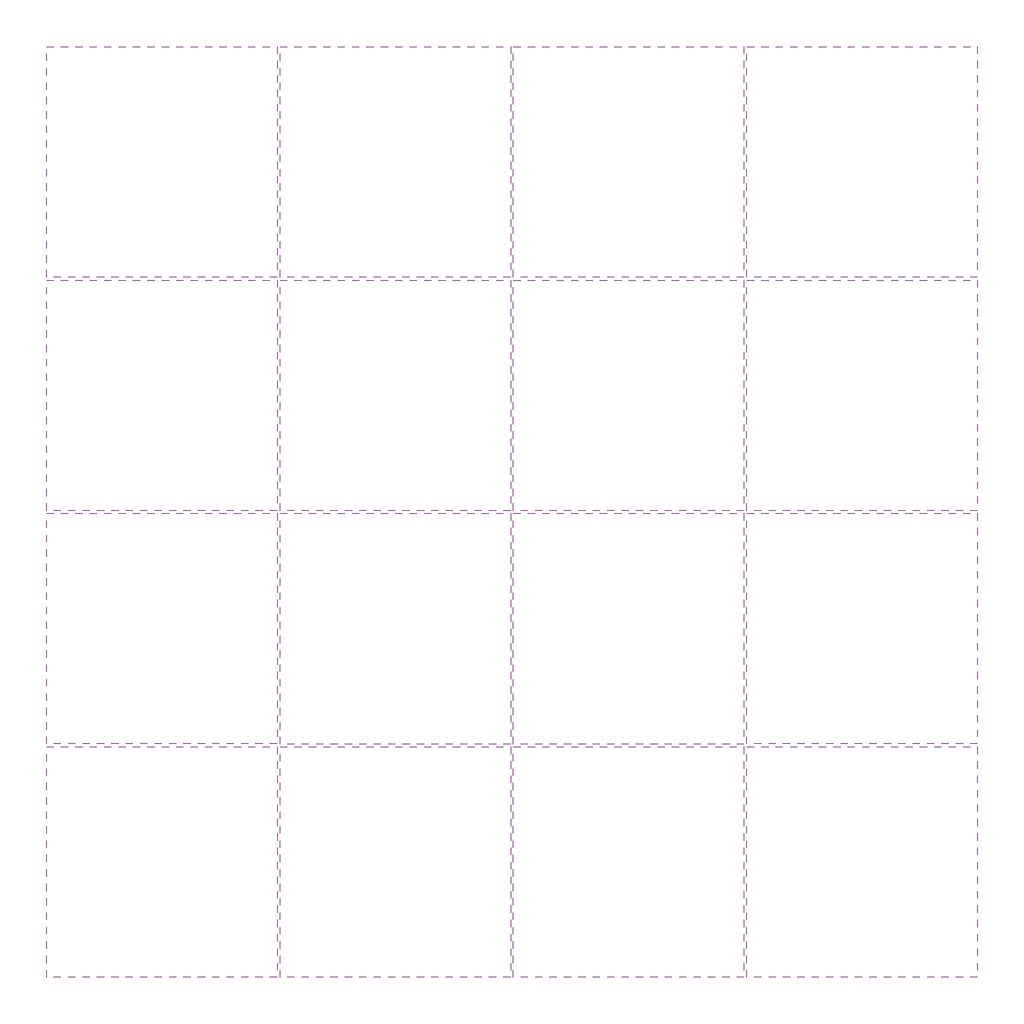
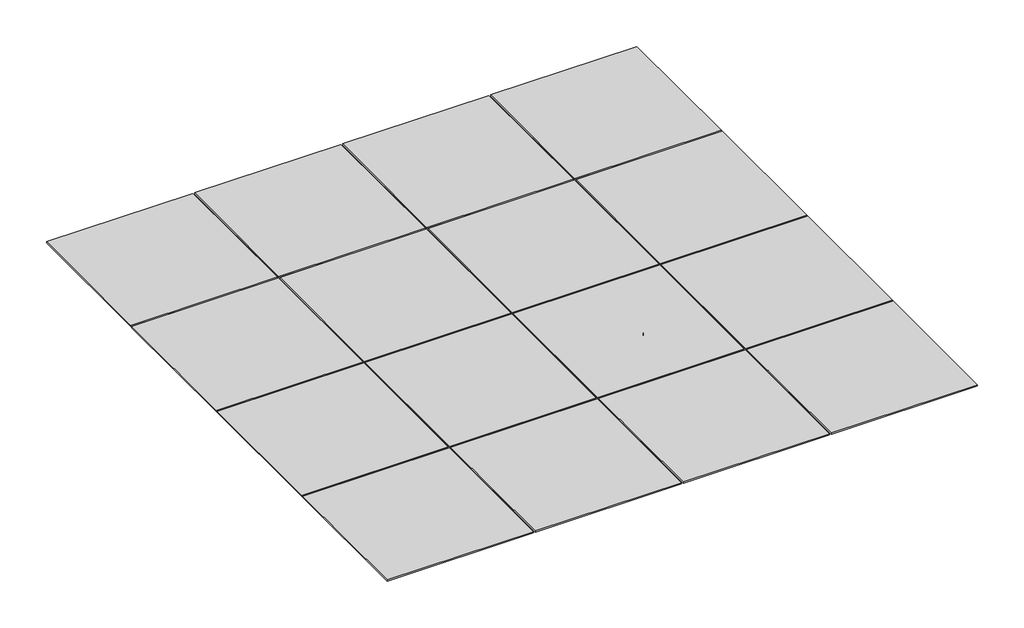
# One storey: 16 plates.
"""IFC4 building model written with IfcOpenShell, lengths in millimetres."""

import ifcopenshell
import ifcopenshell.guid

model = None  # the IFC model being written
_history = None  # IfcOwnerHistory: only IFC2X3 demands one
_inside = {}  # id of a spatial element -> (the spatial element, [elements in it])
_under = {}  # id of a project, library or spatial element -> (it, [spatial elements below it])
_declared = {}  # id of a project -> (the project, [libraries it declares])
_typed = {}  # id of a type object -> (the type object, [elements of that type])
_made_of = {}  # id of a material, layer set ... -> (it, [elements and type objects made of it])


def new_model(schema):
    """Start an empty IFC model of exactly this schema.

    Asked for "IFC4X3", IfcOpenShell would pick the latest addendum, in which some entities
    have other attributes; the version numbers below select the first issue.
    IFC2X3 requires an IfcOwnerHistory on every rooted entity: one is made here for all.
    """
    global model, _history
    if schema == "IFC4X3":
        model = ifcopenshell.file(schema_version=(4, 3, 0, 0))
    else:
        model = ifcopenshell.file(schema=schema)
    _inside.clear()
    _under.clear()
    _declared.clear()
    _typed.clear()
    _made_of.clear()
    _history = None
    if model.schema == "IFC2X3":
        org = make("IfcOrganization", Name="unknown")
        user = make(
            "IfcPersonAndOrganization",
            ThePerson=make("IfcPerson", FamilyName="unknown"),
            TheOrganization=org,
        )
        app = make(
            "IfcApplication",
            ApplicationDeveloper=org,
            Version="unknown",
            ApplicationFullName="unknown",
            ApplicationIdentifier="unknown",
        )
        _history = make(
            "IfcOwnerHistory",
            OwningUser=user,
            OwningApplication=app,
            ChangeAction="ADDED",
            CreationDate=0,
        )
    return model


def make(cls, **values):
    """One entity of the class cls with the attributes given. An attribute that is None is left unset."""
    return model.create_entity(
        cls, **{name: value for name, value in values.items() if value is not None}
    )


def rooted(cls, **values):
    """An entity with a GlobalId (a new one), such as an element, a storey or a relation."""
    return make(cls, GlobalId=ifcopenshell.guid.new(), OwnerHistory=_history, **values)


def si_unit(unit_type, name, prefix=None):
    """IfcSIUnit, for example si_unit("LENGTHUNIT", "METRE", prefix="MILLI")."""
    return make("IfcSIUnit", UnitType=unit_type, Prefix=prefix, Name=name)


def assignment(units):
    """IfcUnitAssignment: the units of a project."""
    return None if units is None else make("IfcUnitAssignment", Units=units)


def point(xyz):
    """IfcCartesianPoint."""
    return None if xyz is None else make("IfcCartesianPoint", Coordinates=xyz)


def direction(xyz):
    """IfcDirection."""
    return None if xyz is None else make("IfcDirection", DirectionRatios=xyz)


def frame(location, z_axis=None, x_axis=None):
    """IfcAxis2Placement3D, a coordinate frame: its origin and axes. An axis left out is left unset."""
    return make(
        "IfcAxis2Placement3D",
        Location=point(location),
        Axis=direction(z_axis),
        RefDirection=direction(x_axis),
    )


def origin():
    """The frame at (0, 0, 0) with its axes left unset."""
    return frame((0.0, 0.0, 0.0))


def place(relative_to, where):
    """IfcLocalPlacement: puts the frame where relative to a parent placement (None: the world)."""
    return make(
        "IfcLocalPlacement", PlacementRelTo=relative_to, RelativePlacement=where
    )


def context(
    kind, dimensions, precision=None, world=None, true_north=None, identifier=None
):
    """IfcGeometricRepresentationContext, for example the 3D "Model" context."""
    return make(
        "IfcGeometricRepresentationContext",
        ContextIdentifier=identifier,
        ContextType=kind,
        CoordinateSpaceDimension=dimensions,
        Precision=precision,
        WorldCoordinateSystem=world,
        TrueNorth=true_north,
    )


def project(units=None, contexts=None):
    """IfcProject with its units and contexts."""
    return rooted(
        "IfcProject",
        Name="project",
        RepresentationContexts=contexts,
        UnitsInContext=assignment(units),
    )


def spatial(cls, under=None, at=None, **own):
    """A site, building, storey or space (cls), placed at a placement, below another one or the project."""
    s = rooted(cls, ObjectPlacement=at, **own)
    if under is not None:
        _under.setdefault(under.id(), (under, []))[1].append(s)
    return s


def polyline(points):
    """IfcPolyline through the points."""
    return make("IfcPolyline", Points=[point(p) for p in points])


def circle_curve(where, radius):
    """IfcCircle in the frame where."""
    return make("IfcCircle", Position=where, Radius=radius)


def outline(outer, holes=None, kind="AREA"):
    """IfcArbitraryClosedProfileDef: a profile drawn as a closed curve; with holes, ...WithVoids."""
    if holes is None:
        return make("IfcArbitraryClosedProfileDef", ProfileType=kind, OuterCurve=outer)
    return make(
        "IfcArbitraryProfileDefWithVoids",
        ProfileType=kind,
        OuterCurve=outer,
        InnerCurves=holes,
    )


def extrude(swept, where, along, depth):
    """IfcExtrudedAreaSolid: the profile swept, set in the frame where, extruded along a direction by depth."""
    return make(
        "IfcExtrudedAreaSolid",
        SweptArea=swept,
        Position=where,
        ExtrudedDirection=direction(along),
        Depth=depth,
    )


def shape(context_of_items, identifier, shape_type, items):
    """IfcShapeRepresentation: the items that make up one representation, for example the "Body"."""
    return make(
        "IfcShapeRepresentation",
        ContextOfItems=context_of_items,
        RepresentationIdentifier=identifier,
        RepresentationType=shape_type,
        Items=items,
    )


def source(mapping_origin, context_of_items, identifier, shape_type, items):
    """IfcRepresentationMap: a shape defined once, which mapped items show again and again."""
    return make(
        "IfcRepresentationMap",
        MappingOrigin=mapping_origin,
        MappedRepresentation=shape(context_of_items, identifier, shape_type, items),
    )


def transform(
    local_origin,
    x_axis=None,
    y_axis=None,
    z_axis=None,
    scale=None,
    scale2=None,
    scale3=None,
    uniform=True,
):
    """IfcCartesianTransformationOperator3D, or its non-uniform kind. x_axis, y_axis, z_axis: its Axis1, 2, 3."""
    if uniform:
        return make(
            "IfcCartesianTransformationOperator3D",
            Axis1=direction(x_axis),
            Axis2=direction(y_axis),
            LocalOrigin=point(local_origin),
            Scale=scale,
            Axis3=direction(z_axis),
        )
    return make(
        "IfcCartesianTransformationOperator3DnonUniform",
        Axis1=direction(x_axis),
        Axis2=direction(y_axis),
        LocalOrigin=point(local_origin),
        Scale=scale,
        Axis3=direction(z_axis),
        Scale2=scale2,
        Scale3=scale3,
    )


def mapped(mapping_source, mapping_target):
    """IfcMappedItem: shows the shape of a source again, moved by a transform."""
    return make(
        "IfcMappedItem", MappingSource=mapping_source, MappingTarget=mapping_target
    )


def made_of(thing, what):
    """Note that an element or type object is made of a material, layer set ...; save() writes the relation."""
    if what is not None:
        _made_of.setdefault(what.id(), (what, []))[1].append(thing)
    return thing


def element(
    cls,
    number,
    at=None,
    inside=None,
    cuts=None,
    type_object=None,
    material=None,
    context=None,
    identifier="Body",
    shape_type=None,
    held_by="IfcProductDefinitionShape",
    body=None,
    shapes=None,
    **own,
):
    """One element of the class cls, such as IfcWall. Its Tag is "e" and its number.

    at: its placement. inside: the storey or other place that contains it. cuts: it is an
    opening in that element (IfcRelVoidsElement). A single representation is given by context,
    identifier, shape_type and body (its items); several are given by shapes. held_by: the class
    of the entity that holds the representations. save() writes the other relations.
    """
    e = rooted(cls, Tag="e%d" % number, ObjectPlacement=at, **own)
    if body is not None:
        shapes = [shape(context, identifier, shape_type, body)]
    if shapes is not None:
        e.Representation = make(held_by, Representations=shapes)
    if inside is not None:
        _inside.setdefault(inside.id(), (inside, []))[1].append(e)
    if cuts is not None:
        rooted(
            "IfcRelVoidsElement", RelatingBuildingElement=cuts, RelatedOpeningElement=e
        )
    if type_object is not None:
        _typed.setdefault(type_object.id(), (type_object, []))[1].append(e)
    return made_of(e, material)


def aggregate(whole, parts):
    """IfcRelAggregates: a whole, such as a stair, and the parts it consists of."""
    return rooted("IfcRelAggregates", RelatingObject=whole, RelatedObjects=parts)


def save(model, path):
    """Write the relations noted so far, then the file.

    IfcRelAggregates (storeys below a building ...), IfcRelContainedInSpatialStructure (elements
    in a storey), IfcRelDefinesByType, IfcRelAssociatesMaterial and IfcRelDeclares: one each for
    every whole, place, type object, material and project.
    """
    for whole, parts in _under.values():
        aggregate(whole, parts)
    for where, things in _inside.values():
        rooted(
            "IfcRelContainedInSpatialStructure",
            RelatedElements=things,
            RelatingStructure=where,
        )
    for kind, things in _typed.values():
        rooted("IfcRelDefinesByType", RelatedObjects=things, RelatingType=kind)
    for what, things in _made_of.values():
        rooted("IfcRelAssociatesMaterial", RelatedObjects=things, RelatingMaterial=what)
    for by, libraries in _declared.values():
        rooted("IfcRelDeclares", RelatingContext=by, RelatedDefinitions=libraries)
    model.write(path)


def plane_surface(at):
    """IfcPlane: the flat surface through the origin of the frame at, square to its z axis."""
    return make("IfcPlane", Position=at)


def revolved_surface(curve, axis_point, axis_direction):
    """IfcSurfaceOfRevolution: the curve turned about the line through axis_point along axis_direction."""
    return make(
        "IfcSurfaceOfRevolution",
        SweptCurve=make("IfcArbitraryOpenProfileDef", ProfileType="CURVE", Curve=curve),
        AxisPosition=make("IfcAxis1Placement", Location=point(axis_point), Axis=direction(axis_direction)),
    )


def advanced_brep(points, edges, surfaces, faces):
    """IfcAdvancedBrep: a solid bounded by faces that lie on surfaces and meet in shared edges.

    An edge is (start, end): straight between two places in points (the first is 0);
    or (start, end, curve); or (start, end, curve, False) where it runs against its curve.
    A face is (place in surfaces, loops), or (place, loops, False) where it looks against
    its surface's normal. A loop lists edges by number (the first is 1), with a minus sign
    where the edge is run from its end to its start. The first loop is the outer one.
    """
    corners = [point(p) for p in points]
    vertices = [make("IfcVertexPoint", VertexGeometry=c) for c in corners]
    made = []
    for start, end, *more in edges:
        made.append(
            make(
                "IfcEdgeCurve",
                EdgeStart=vertices[start],
                EdgeEnd=vertices[end],
                EdgeGeometry=more[0] if more else make("IfcPolyline", Points=[corners[start], corners[end]]),
                SameSense=more[1] if len(more) > 1 else True,
            )
        )
    hull = []
    for where, loops, *sense in faces:
        bounds = []
        for j, loop in enumerate(loops):
            ring = [make("IfcOrientedEdge", EdgeElement=made[abs(k) - 1], Orientation=k > 0) for k in loop]
            bounds.append(
                make(
                    "IfcFaceOuterBound" if j == 0 else "IfcFaceBound",
                    Bound=make("IfcEdgeLoop", EdgeList=ring),
                    Orientation=True,
                )
            )
        hull.append(make("IfcAdvancedFace", Bounds=bounds, FaceSurface=surfaces[where], SameSense=sense[0] if sense else True))
    return make("IfcAdvancedBrep", Outer=make("IfcClosedShell", CfsFaces=hull))


def plate_562299b5(model_context):
    return source(origin(), model_context, "Body", "SweptSolid", [
        extrude(outline(polyline([(300.9900002, 0.0), (-300.9900002, 0.0), (-300.9900002, 4.9609375), (300.9900002, 4.9609375), (300.9900002, 0.0)])), frame((0.0, 0.0, 3.81), z_axis=(0.0, 0.0, 1.0), x_axis=(1.0, 0.0, 0.0)), (0.0, 0.0, 1.0), 601.98),
    ])


def plate_104ba011(model_context):
    return source(origin(), model_context, "Body", "SolidModel", [
        advanced_brep(
        [(-290.8101563, 4.9609375, 13.9898438), (-290.8101563, 81.1082644, 13.9898438), (290.8101562, 81.1082644, 13.9898438), (290.8101562, 4.9609375, 13.9898438), (-290.8101562, 4.9609375, 595.6101563), (290.8101562, 4.9609375, 595.6101563), (290.8101562, 5.3578125, 595.6101563), (-45.2139594, 5.3578125, 595.6101563), (-45.2139594, 24.0011217, 595.6101563), (-108.7057833, 24.0011217, 595.6101563), (-108.7057833, 43.0511081, 595.6101563), (-156.3229695, 43.0511081, 595.6101563), (-156.3229695, 62.1010648, 595.6101563), (-232.5082728, 62.1010648, 595.6101563), (-232.5082728, 81.1082644, 595.6101563), (-290.8101562, 81.1082644, 595.6101563), (-232.5082728, 81.1082644, 288.5308572), (-16.2765586, 81.1082644, 72.2991429), (290.8101562, 81.1082644, 72.2991429), (-232.5082728, 62.1010648, 288.5308572), (-156.3229695, 62.1010648, 288.5308572), (-16.2765586, 62.1010648, 148.4844463), (290.8101563, 62.1010648, 148.4844463), (290.8101562, 62.1010648, 72.2991429), (-16.2765586, 62.1010648, 72.2991429), (-156.3229695, 43.0511081, 288.5308572), (-108.7057833, 43.0511081, 288.5308572), (-16.2765586, 43.0511081, 196.1016324), (290.8101563, 43.0511081, 196.1016324), (290.8101562, 43.0511081, 148.4844463), (-16.2765586, 43.0511081, 148.4844463), (-108.7057833, 24.0011217, 288.5308572), (-16.2765586, 24.0011217, 196.1016324), (290.8101563, 24.0011217, 196.1016324), (-45.2139594, 24.0011217, 288.5308572), (-16.2765586, 24.0011217, 259.5934564), (290.8101563, 24.0011217, 259.5934564), (-45.2139594, 5.3578125, 288.5308572), (-16.2765586, 5.3578125, 259.5934564), (290.8101563, 5.3578125, 259.5934564)],
        [
            (0, 1),
            (1, 2),
            (2, 3),
            (3, 0),
            (4, 5),
            (5, 6),
            (6, 7),
            (7, 8),
            (8, 9),
            (9, 10),
            (10, 11),
            (11, 12),
            (12, 13),
            (13, 14),
            (14, 15),
            (15, 4),
            (3, 5),
            (4, 0),
            (1, 15),
            (14, 16),
            (16, 17, circle_curve(frame((-16.2765586, 81.1082644, 288.5308572), z_axis=(0.0, -1.0, 0.0), x_axis=(-1.0, 0.0, 0.0)), 216.2317143)),
            (17, 18),
            (18, 2),
            (13, 19),
            (19, 16),
            (12, 20),
            (20, 21, circle_curve(frame((-16.2765586, 62.1010648, 288.5308572), z_axis=(0.0, -1.0, 0.0), x_axis=(-1.0, 0.0, 0.0)), 140.0464109)),
            (21, 22),
            (22, 23),
            (23, 24),
            (24, 19, circle_curve(frame((-16.2765586, 62.1010648, 288.5308572), z_axis=(0.0, 1.0, 0.0), x_axis=(-1.0, 0.0, 0.0)), 216.2317143)),
            (11, 25),
            (25, 20),
            (10, 26),
            (26, 27, circle_curve(frame((-16.2765586, 43.0511081, 288.5308572), z_axis=(0.0, -1.0, 0.0), x_axis=(-1.0, 0.0, 0.0)), 92.4292248)),
            (27, 28),
            (28, 29),
            (29, 30),
            (30, 25, circle_curve(frame((-16.2765586, 43.0511081, 288.5308572), z_axis=(0.0, 1.0, 0.0), x_axis=(-1.0, 0.0, 0.0)), 140.0464109)),
            (9, 31),
            (31, 26),
            (24, 17),
            (30, 21),
            (31, 32, circle_curve(frame((-16.2765586, 24.0011217, 288.5308572), z_axis=(0.0, -1.0, 0.0), x_axis=(-1.0, 0.0, 0.0)), 92.4292248)),
            (32, 27),
            (23, 18),
            (29, 22),
            (32, 33),
            (33, 28),
            (8, 34),
            (34, 35, circle_curve(frame((-16.2765586, 24.0011217, 288.5308572), z_axis=(0.0, -1.0, 0.0), x_axis=(-1.0, 0.0, 0.0)), 28.9374008)),
            (35, 36),
            (36, 33),
            (7, 37),
            (37, 34),
            (37, 38, circle_curve(frame((-16.2765586, 5.3578125, 288.5308572), z_axis=(0.0, -1.0, 0.0), x_axis=(-1.0, 0.0, 0.0)), 28.9374008)),
            (38, 35),
            (38, 39),
            (39, 36),
            (39, 6),
        ],
        [
            plane_surface(frame((-290.8101563, 4.9609375, 13.9898438), z_axis=(0.0, 0.0, -1.0), x_axis=(0.0, 1.0, 0.0))),
            plane_surface(frame((-290.8101562, 4.9609375, 595.6101563), z_axis=(0.0, 0.0, 1.0), x_axis=(0.0, -1.0, 0.0))),
            plane_surface(frame((290.8101562, 4.9609375, 13.9898438), z_axis=(0.0, -1.0, 0.0), x_axis=(0.0, 0.0, 1.0))),
            plane_surface(frame((-290.8101563, 81.1082644, 13.9898438), z_axis=(0.0, 1.0, 0.0), x_axis=(0.0, 0.0, 1.0))),
            plane_surface(frame((-232.5082728, 81.1082644, 595.6101563), z_axis=(1.0, 0.0, 0.0), x_axis=(0.0, 0.0, -1.0))),
            plane_surface(frame((-232.5082728, 62.1010648, 595.6101563), z_axis=(0.0, 1.0, 0.0), x_axis=(0.0, 0.0, -1.0))),
            plane_surface(frame((-156.3229695, 62.1010648, 595.6101563), z_axis=(1.0, 0.0, 0.0), x_axis=(0.0, 0.0, -1.0))),
            plane_surface(frame((-156.3229695, 43.0511081, 595.6101563), z_axis=(0.0, 1.0, 0.0), x_axis=(0.0, 0.0, -1.0))),
            plane_surface(frame((-108.7057833, 43.0511081, 595.6101563), z_axis=(1.0, 0.0, 0.0), x_axis=(0.0, 0.0, -1.0))),
            revolved_surface(polyline([(-232.5082729, 62.1010648, 288.5308572), (-232.5082729, 81.1082644, 288.5308572)]), (-16.2765586, 4.9609375, 288.5308572), (0.0, -1.0, 0.0)),
            revolved_surface(polyline([(-156.3229695, 43.0511081, 288.5308572), (-156.3229695, 62.1010648, 288.5308572)]), (-16.2765586, 4.9609375, 288.5308572), (0.0, -1.0, 0.0)),
            revolved_surface(polyline([(-108.7057834, 24.0011217, 288.5308572), (-108.7057834, 43.0511081, 288.5308572)]), (-16.2765586, 4.9609375, 288.5308572), (0.0, -1.0, 0.0)),
            plane_surface(frame((-16.2765586, 81.1082644, 72.2991429), z_axis=(0.0, 0.0, 1.0), x_axis=(1.0, 0.0, 0.0))),
            plane_surface(frame((-16.2765586, 62.1010648, 148.4844463), z_axis=(0.0, 0.0, 1.0), x_axis=(1.0, 0.0, 0.0))),
            plane_surface(frame((-16.2765586, 43.0511081, 196.1016324), z_axis=(0.0, 0.0, 1.0), x_axis=(1.0, 0.0, 0.0))),
            plane_surface(frame((-108.7057833, 24.0011217, 595.6101563), z_axis=(0.0, 1.0, 0.0), x_axis=(0.0, 0.0, -1.0))),
            plane_surface(frame((-45.2139594, 24.0011217, 595.6101563), z_axis=(1.0, 0.0, 0.0), x_axis=(0.0, 0.0, -1.0))),
            revolved_surface(polyline([(-45.2139594, 5.3578125, 288.5308572), (-45.2139594, 24.0011217, 288.5308572)]), (-16.2765586, 4.9609375, 288.5308572), (0.0, -1.0, 0.0)),
            plane_surface(frame((-16.2765586, 24.0011217, 259.5934564), z_axis=(0.0, 0.0, 1.0), x_axis=(1.0, 0.0, 0.0))),
            plane_surface(frame((-290.8101563, 4.9609375, 13.9898438), z_axis=(-1.0, 0.0, 0.0), x_axis=(0.0, 0.0, 1.0))),
            plane_surface(frame((290.8101562, 81.1082644, 13.9898438), z_axis=(1.0, 0.0, 0.0), x_axis=(0.0, 0.0, 1.0))),
            plane_surface(frame((-45.2139594, 5.3578125, 595.6101563), z_axis=(0.0, 1.0, 0.0), x_axis=(0.0, 0.0, -1.0))),
        ],
        [
            (0, [[1, 2, 3, 4]]),
            (1, [[5, 6, 7, 8, 9, 10, 11, 12, 13, 14, 15, 16]]),
            (2, [[-4, 17, -5, 18]]),
            (3, [[-2, 19, -15, 20, 21, 22, 23]]),
            (4, [[24, 25, -20, -14]]),
            (5, [[-24, -13, 26, 27, 28, 29, 30, 31]]),
            (6, [[-26, -12, 32, 33]]),
            (7, [[-32, -11, 34, 35, 36, 37, 38, 39]]),
            (8, [[-34, -10, 40, 41]]),
            (9, [[-25, -31, 42, -21]]),
            (10, [[-27, -33, -39, 43]]),
            (11, [[-35, -41, 44, 45]]),
            (12, [[-30, 46, -22, -42]]),
            (13, [[-28, -43, -38, 47]]),
            (14, [[-36, -45, 48, 49]]),
            (15, [[-40, -9, 50, 51, 52, 53, -48, -44]]),
            (16, [[-50, -8, 54, 55]]),
            (17, [[-51, -55, 56, 57]]),
            (18, [[-52, -57, 58, 59]]),
            (19, [[-1, -18, -16, -19]]),
            (20, [[-3, -23, -46, -29, -47, -37, -49, -53, -59, 60, -6, -17]]),
            (21, [[-54, -7, -60, -58, -56]]),
        ],
    ),
        extrude(outline(polyline([(300.99, 0.0), (-300.99, 0.0), (-300.99, 4.9609375), (300.99, 4.9609375), (300.99, 0.0)])), frame((0.0, 0.0, 3.81), z_axis=(0.0, 0.0, 1.0), x_axis=(1.0, 0.0, 0.0)), (0.0, 0.0, 1.0), 601.98),
    ])


def plate_ab7ddb5a(model_context):
    return source(origin(), model_context, "Body", "SolidModel", [
        advanced_brep(
        [(290.8101562, 4.9609375, 13.9898438), (290.8101562, 81.1082644, 13.9898438), (290.8101563, 81.1082644, 595.6101563), (290.8101563, 4.9609375, 595.6101563), (-290.8101563, 4.9609375, 13.9898438), (-290.8101562, 4.9609375, 595.6101563), (-290.8101562, 5.3578125, 595.6101563), (-290.8101562, 5.3578125, 259.5860406), (-290.8101562, 24.0011217, 259.5860406), (-290.8101563, 24.0011217, 196.0942167), (-290.8101563, 43.0511081, 196.0942167), (-290.8101563, 43.0511081, 148.4770305), (-290.8101563, 62.1010648, 148.4770305), (-290.8101563, 62.1010648, 72.2917272), (-290.8101563, 81.1082644, 72.2917272), (-290.8101563, 81.1082644, 13.9898438), (16.2691428, 81.1082644, 72.2917272), (232.5008571, 81.1082644, 288.5234414), (232.5008571, 81.1082644, 595.6101563), (16.2691428, 62.1010648, 72.2917272), (16.2691428, 62.1010648, 148.4770305), (156.3155537, 62.1010648, 288.5234414), (156.3155537, 62.1010648, 595.6101563), (232.5008571, 62.1010648, 595.6101563), (232.5008571, 62.1010648, 288.5234414), (16.2691428, 43.0511081, 148.4770305), (16.2691428, 43.0511081, 196.0942167), (108.6983676, 43.0511081, 288.5234414), (108.6983676, 43.0511081, 595.6101563), (156.3155537, 43.0511081, 595.6101563), (156.3155537, 43.0511081, 288.5234414), (16.2691428, 24.0011217, 196.0942167), (108.6983676, 24.0011217, 288.5234414), (108.6983676, 24.0011217, 595.6101563), (16.2691428, 24.0011217, 259.5860406), (45.2065436, 24.0011217, 288.5234414), (45.2065436, 24.0011217, 595.6101563), (16.2691428, 5.3578125, 259.5860406), (45.2065436, 5.3578125, 288.5234414), (45.2065436, 5.3578125, 595.6101563)],
        [
            (0, 1),
            (1, 2),
            (2, 3),
            (3, 0),
            (4, 5),
            (5, 6),
            (6, 7),
            (7, 8),
            (8, 9),
            (9, 10),
            (10, 11),
            (11, 12),
            (12, 13),
            (13, 14),
            (14, 15),
            (15, 4),
            (3, 5),
            (4, 0),
            (1, 15),
            (14, 16),
            (16, 17, circle_curve(frame((16.2691428, 81.1082644, 288.5234414), z_axis=(0.0, -1.0, 0.0), x_axis=(0.0, 0.0, -1.0)), 216.2317143)),
            (17, 18),
            (18, 2),
            (13, 19),
            (19, 16),
            (12, 20),
            (20, 21, circle_curve(frame((16.2691428, 62.1010648, 288.5234414), z_axis=(0.0, -1.0, 0.0), x_axis=(0.0, 0.0, -1.0)), 140.0464109)),
            (21, 22),
            (22, 23),
            (23, 24),
            (24, 19, circle_curve(frame((16.2691428, 62.1010648, 288.5234414), z_axis=(0.0, 1.0, 0.0), x_axis=(0.0, 0.0, -1.0)), 216.2317143)),
            (11, 25),
            (25, 20),
            (10, 26),
            (26, 27, circle_curve(frame((16.2691428, 43.0511081, 288.5234414), z_axis=(0.0, -1.0, 0.0), x_axis=(0.0, 0.0, -1.0)), 92.4292248)),
            (27, 28),
            (28, 29),
            (29, 30),
            (30, 25, circle_curve(frame((16.2691428, 43.0511081, 288.5234414), z_axis=(0.0, 1.0, 0.0), x_axis=(0.0, 0.0, -1.0)), 140.0464109)),
            (9, 31),
            (31, 26),
            (24, 17),
            (30, 21),
            (31, 32, circle_curve(frame((16.2691428, 24.0011217, 288.5234414), z_axis=(0.0, -1.0, 0.0), x_axis=(0.0, 0.0, -1.0)), 92.4292248)),
            (32, 27),
            (23, 18),
            (29, 22),
            (32, 33),
            (33, 28),
            (8, 34),
            (34, 35, circle_curve(frame((16.2691428, 24.0011217, 288.5234414), z_axis=(0.0, -1.0, 0.0), x_axis=(0.0, 0.0, -1.0)), 28.9374008)),
            (35, 36),
            (36, 33),
            (7, 37),
            (37, 34),
            (37, 38, circle_curve(frame((16.2691428, 5.3578125, 288.5234414), z_axis=(0.0, -1.0, 0.0), x_axis=(0.0, 0.0, -1.0)), 28.9374008)),
            (38, 35),
            (38, 39),
            (39, 36),
            (39, 6),
        ],
        [
            plane_surface(frame((290.8101562, 4.9609375, 13.9898438), z_axis=(1.0, 0.0, 0.0), x_axis=(0.0, 1.0, 0.0))),
            plane_surface(frame((-290.8101563, 4.9609375, 13.9898438), z_axis=(-1.0, 0.0, 0.0), x_axis=(0.0, -1.0, 0.0))),
            plane_surface(frame((290.8101563, 4.9609375, 595.6101563), z_axis=(0.0, -1.0, 0.0), x_axis=(-1.0, 0.0, 0.0))),
            plane_surface(frame((290.8101562, 81.1082644, 13.9898438), z_axis=(0.0, 1.0, 0.0), x_axis=(-1.0, 0.0, 0.0))),
            plane_surface(frame((-290.8101563, 81.1082644, 72.2917272), z_axis=(0.0, 0.0, 1.0), x_axis=(1.0, 0.0, 0.0))),
            plane_surface(frame((-290.8101563, 62.1010648, 72.2917272), z_axis=(0.0, 1.0, 0.0), x_axis=(1.0, 0.0, 0.0))),
            plane_surface(frame((-290.8101562, 62.1010648, 148.4770305), z_axis=(0.0, 0.0, 1.0), x_axis=(1.0, 0.0, 0.0))),
            plane_surface(frame((-290.8101562, 43.0511081, 148.4770305), z_axis=(0.0, 1.0, 0.0), x_axis=(1.0, 0.0, 0.0))),
            plane_surface(frame((-290.8101562, 43.0511081, 196.0942167), z_axis=(0.0, 0.0, 1.0), x_axis=(1.0, 0.0, 0.0))),
            revolved_surface(polyline([(16.2691428, 62.1010648, 72.29172710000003), (16.2691428, 81.1082644, 72.29172710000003)]), (16.2691428, 4.9609375, 288.5234414), (0.0, -1.0, 0.0)),
            revolved_surface(polyline([(16.2691428, 43.0511081, 148.4770305), (16.2691428, 62.1010648, 148.4770305)]), (16.2691428, 4.9609375, 288.5234414), (0.0, -1.0, 0.0)),
            revolved_surface(polyline([(16.2691428, 24.0011217, 196.09421660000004), (16.2691428, 43.0511081, 196.09421660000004)]), (16.2691428, 4.9609375, 288.5234414), (0.0, -1.0, 0.0)),
            plane_surface(frame((232.5008571, 81.1082644, 288.5234414), z_axis=(-1.0, 0.0, 0.0), x_axis=(0.0, 0.0, 1.0))),
            plane_surface(frame((156.3155537, 62.1010648, 288.5234414), z_axis=(-1.0, 0.0, 0.0), x_axis=(0.0, 0.0, 1.0))),
            plane_surface(frame((108.6983676, 43.0511081, 288.5234414), z_axis=(-1.0, 0.0, 0.0), x_axis=(0.0, 0.0, 1.0))),
            plane_surface(frame((-290.8101562, 24.0011217, 196.0942167), z_axis=(0.0, 1.0, 0.0), x_axis=(1.0, 0.0, 0.0))),
            plane_surface(frame((-290.8101562, 24.0011217, 259.5860406), z_axis=(0.0, 0.0, 1.0), x_axis=(1.0, 0.0, 0.0))),
            revolved_surface(polyline([(16.2691428, 5.3578125, 259.58604060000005), (16.2691428, 24.0011217, 259.58604060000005)]), (16.2691428, 4.9609375, 288.5234414), (0.0, -1.0, 0.0)),
            plane_surface(frame((45.2065436, 24.0011217, 288.5234414), z_axis=(-1.0, 0.0, 0.0), x_axis=(0.0, 0.0, 1.0))),
            plane_surface(frame((290.8101562, 4.9609375, 13.9898438), z_axis=(0.0, 0.0, -1.0), x_axis=(-1.0, 0.0, 0.0))),
            plane_surface(frame((290.8101563, 81.1082644, 595.6101563), z_axis=(0.0, 0.0, 1.0), x_axis=(-1.0, 0.0, 0.0))),
            plane_surface(frame((-290.8101562, 5.3578125, 259.5860406), z_axis=(0.0, 1.0, 0.0), x_axis=(1.0, 0.0, 0.0))),
        ],
        [
            (0, [[1, 2, 3, 4]]),
            (1, [[5, 6, 7, 8, 9, 10, 11, 12, 13, 14, 15, 16]]),
            (2, [[-4, 17, -5, 18]]),
            (3, [[-2, 19, -15, 20, 21, 22, 23]]),
            (4, [[24, 25, -20, -14]]),
            (5, [[-24, -13, 26, 27, 28, 29, 30, 31]]),
            (6, [[-26, -12, 32, 33]]),
            (7, [[-32, -11, 34, 35, 36, 37, 38, 39]]),
            (8, [[-34, -10, 40, 41]]),
            (9, [[-25, -31, 42, -21]]),
            (10, [[-27, -33, -39, 43]]),
            (11, [[-35, -41, 44, 45]]),
            (12, [[-30, 46, -22, -42]]),
            (13, [[-28, -43, -38, 47]]),
            (14, [[-36, -45, 48, 49]]),
            (15, [[-40, -9, 50, 51, 52, 53, -48, -44]]),
            (16, [[-50, -8, 54, 55]]),
            (17, [[-51, -55, 56, 57]]),
            (18, [[-52, -57, 58, 59]]),
            (19, [[-1, -18, -16, -19]]),
            (20, [[-3, -23, -46, -29, -47, -37, -49, -53, -59, 60, -6, -17]]),
            (21, [[-54, -7, -60, -58, -56]]),
        ],
    ),
        extrude(outline(polyline([(300.99, 0.0), (-300.99, 0.0), (-300.99, 4.9609375), (300.99, 4.9609375), (300.99, 0.0)])), frame((0.0, 0.0, 3.81), z_axis=(0.0, 0.0, 1.0), x_axis=(1.0, 0.0, 0.0)), (0.0, 0.0, 1.0), 601.98),
    ])


def plate_bf94edcd(model_context):
    return source(origin(), model_context, "Body", "SolidModel", [
        advanced_brep(
        [(-290.8101562, 4.9609375, 595.6101563), (-290.8101562, 81.1082644, 595.6101563), (-290.8101563, 81.1082644, 13.9898438), (-290.8101563, 4.9609375, 13.9898438), (290.8101563, 4.9609375, 595.6101563), (290.8101562, 4.9609375, 13.9898438), (290.8101562, 5.3578125, 13.9898438), (290.8101563, 5.3578125, 350.0139594), (290.8101563, 24.0011217, 350.0139594), (290.8101563, 24.0011217, 413.5057833), (290.8101563, 43.0511081, 413.5057833), (290.8101563, 43.0511081, 461.1229695), (290.8101563, 62.1010648, 461.1229695), (290.8101563, 62.1010648, 537.3082728), (290.8101563, 81.1082644, 537.3082728), (290.8101563, 81.1082644, 595.6101563), (-16.2691428, 81.1082644, 537.3082728), (-232.5008571, 81.1082644, 321.0765586), (-232.5008571, 81.1082644, 13.9898438), (-16.2691428, 62.1010648, 537.3082728), (-16.2691428, 62.1010648, 461.1229695), (-156.3155537, 62.1010648, 321.0765586), (-156.3155537, 62.1010648, 13.9898438), (-232.5008571, 62.1010648, 13.9898438), (-232.5008571, 62.1010648, 321.0765586), (-16.2691428, 43.0511081, 461.1229695), (-16.2691428, 43.0511081, 413.5057833), (-108.6983676, 43.0511081, 321.0765586), (-108.6983676, 43.0511081, 13.9898438), (-156.3155537, 43.0511081, 13.9898438), (-156.3155537, 43.0511081, 321.0765586), (-16.2691428, 24.0011217, 413.5057833), (-108.6983676, 24.0011217, 321.0765586), (-108.6983676, 24.0011217, 13.9898438), (-16.2691428, 24.0011217, 350.0139594), (-45.2065436, 24.0011217, 321.0765586), (-45.2065436, 24.0011217, 13.9898438), (-16.2691428, 5.3578125, 350.0139594), (-45.2065436, 5.3578125, 321.0765586), (-45.2065436, 5.3578125, 13.9898438)],
        [
            (0, 1),
            (1, 2),
            (2, 3),
            (3, 0),
            (4, 5),
            (5, 6),
            (6, 7),
            (7, 8),
            (8, 9),
            (9, 10),
            (10, 11),
            (11, 12),
            (12, 13),
            (13, 14),
            (14, 15),
            (15, 4),
            (3, 5),
            (4, 0),
            (1, 15),
            (14, 16),
            (16, 17, circle_curve(frame((-16.2691428, 81.1082644, 321.0765586), z_axis=(0.0, -1.0, 0.0), x_axis=(0.0, 0.0, 1.0)), 216.2317143)),
            (17, 18),
            (18, 2),
            (13, 19),
            (19, 16),
            (12, 20),
            (20, 21, circle_curve(frame((-16.2691428, 62.1010648, 321.0765586), z_axis=(0.0, -1.0, 0.0), x_axis=(0.0, 0.0, 1.0)), 140.0464109)),
            (21, 22),
            (22, 23),
            (23, 24),
            (24, 19, circle_curve(frame((-16.2691428, 62.1010648, 321.0765586), z_axis=(0.0, 1.0, 0.0), x_axis=(0.0, 0.0, 1.0)), 216.2317143)),
            (11, 25),
            (25, 20),
            (10, 26),
            (26, 27, circle_curve(frame((-16.2691428, 43.0511081, 321.0765586), z_axis=(0.0, -1.0, 0.0), x_axis=(0.0, 0.0, 1.0)), 92.4292248)),
            (27, 28),
            (28, 29),
            (29, 30),
            (30, 25, circle_curve(frame((-16.2691428, 43.0511081, 321.0765586), z_axis=(0.0, 1.0, 0.0), x_axis=(0.0, 0.0, 1.0)), 140.0464109)),
            (9, 31),
            (31, 26),
            (24, 17),
            (30, 21),
            (31, 32, circle_curve(frame((-16.2691428, 24.0011217, 321.0765586), z_axis=(0.0, -1.0, 0.0), x_axis=(0.0, 0.0, 1.0)), 92.4292248)),
            (32, 27),
            (23, 18),
            (29, 22),
            (32, 33),
            (33, 28),
            (8, 34),
            (34, 35, circle_curve(frame((-16.2691428, 24.0011217, 321.0765586), z_axis=(0.0, -1.0, 0.0), x_axis=(0.0, 0.0, 1.0)), 28.9374008)),
            (35, 36),
            (36, 33),
            (7, 37),
            (37, 34),
            (37, 38, circle_curve(frame((-16.2691428, 5.3578125, 321.0765586), z_axis=(0.0, -1.0, 0.0), x_axis=(0.0, 0.0, 1.0)), 28.9374008)),
            (38, 35),
            (38, 39),
            (39, 36),
            (39, 6),
        ],
        [
            plane_surface(frame((-290.8101562, 4.9609375, 595.6101563), z_axis=(-1.0, 0.0, 0.0), x_axis=(0.0, 1.0, 0.0))),
            plane_surface(frame((290.8101563, 4.9609375, 595.6101563), z_axis=(1.0, 0.0, 0.0), x_axis=(0.0, -1.0, 0.0))),
            plane_surface(frame((-290.8101563, 4.9609375, 13.9898438), z_axis=(0.0, -1.0, 0.0), x_axis=(1.0, 0.0, 0.0))),
            plane_surface(frame((-290.8101562, 81.1082644, 595.6101563), z_axis=(0.0, 1.0, 0.0), x_axis=(1.0, 0.0, 0.0))),
            plane_surface(frame((290.8101563, 81.1082644, 537.3082728), z_axis=(0.0, 0.0, -1.0), x_axis=(-1.0, 0.0, 0.0))),
            plane_surface(frame((290.8101563, 62.1010648, 537.3082728), z_axis=(0.0, 1.0, 0.0), x_axis=(-1.0, 0.0, 0.0))),
            plane_surface(frame((290.8101563, 62.1010648, 461.1229695), z_axis=(0.0, 0.0, -1.0), x_axis=(-1.0, 0.0, 0.0))),
            plane_surface(frame((290.8101563, 43.0511081, 461.1229695), z_axis=(0.0, 1.0, 0.0), x_axis=(-1.0, 0.0, 0.0))),
            plane_surface(frame((290.8101563, 43.0511081, 413.5057833), z_axis=(0.0, 0.0, -1.0), x_axis=(-1.0, 0.0, 0.0))),
            revolved_surface(polyline([(-16.2691428, 62.1010648, 537.3082729), (-16.2691428, 81.1082644, 537.3082729)]), (-16.2691428, 4.9609375, 321.0765586), (0.0, -1.0, 0.0)),
            revolved_surface(polyline([(-16.2691428, 43.0511081, 461.1229695), (-16.2691428, 62.1010648, 461.1229695)]), (-16.2691428, 4.9609375, 321.0765586), (0.0, -1.0, 0.0)),
            revolved_surface(polyline([(-16.2691428, 24.0011217, 413.5057834), (-16.2691428, 43.0511081, 413.5057834)]), (-16.2691428, 4.9609375, 321.0765586), (0.0, -1.0, 0.0)),
            plane_surface(frame((-232.5008571, 81.1082644, 321.0765586), z_axis=(1.0, 0.0, 0.0), x_axis=(0.0, 0.0, -1.0))),
            plane_surface(frame((-156.3155537, 62.1010648, 321.0765586), z_axis=(1.0, 0.0, 0.0), x_axis=(0.0, 0.0, -1.0))),
            plane_surface(frame((-108.6983676, 43.0511081, 321.0765586), z_axis=(1.0, 0.0, 0.0), x_axis=(0.0, 0.0, -1.0))),
            plane_surface(frame((290.8101563, 24.0011217, 413.5057833), z_axis=(0.0, 1.0, 0.0), x_axis=(-1.0, 0.0, 0.0))),
            plane_surface(frame((290.8101563, 24.0011217, 350.0139594), z_axis=(0.0, 0.0, -1.0), x_axis=(-1.0, 0.0, 0.0))),
            revolved_surface(polyline([(-16.2691428, 5.3578125, 350.0139594), (-16.2691428, 24.0011217, 350.0139594)]), (-16.2691428, 4.9609375, 321.0765586), (0.0, -1.0, 0.0)),
            plane_surface(frame((-45.2065436, 24.0011217, 321.0765586), z_axis=(1.0, 0.0, 0.0), x_axis=(0.0, 0.0, -1.0))),
            plane_surface(frame((-290.8101562, 4.9609375, 595.6101563), z_axis=(0.0, 0.0, 1.0), x_axis=(1.0, 0.0, 0.0))),
            plane_surface(frame((-290.8101563, 81.1082644, 13.9898438), z_axis=(0.0, 0.0, -1.0), x_axis=(1.0, 0.0, 0.0))),
            plane_surface(frame((290.8101563, 5.3578125, 350.0139594), z_axis=(0.0, 1.0, 0.0), x_axis=(-1.0, 0.0, 0.0))),
        ],
        [
            (0, [[1, 2, 3, 4]]),
            (1, [[5, 6, 7, 8, 9, 10, 11, 12, 13, 14, 15, 16]]),
            (2, [[-4, 17, -5, 18]]),
            (3, [[-2, 19, -15, 20, 21, 22, 23]]),
            (4, [[24, 25, -20, -14]]),
            (5, [[-24, -13, 26, 27, 28, 29, 30, 31]]),
            (6, [[-26, -12, 32, 33]]),
            (7, [[-32, -11, 34, 35, 36, 37, 38, 39]]),
            (8, [[-34, -10, 40, 41]]),
            (9, [[-25, -31, 42, -21]]),
            (10, [[-27, -33, -39, 43]]),
            (11, [[-35, -41, 44, 45]]),
            (12, [[-30, 46, -22, -42]]),
            (13, [[-28, -43, -38, 47]]),
            (14, [[-36, -45, 48, 49]]),
            (15, [[-40, -9, 50, 51, 52, 53, -48, -44]]),
            (16, [[-50, -8, 54, 55]]),
            (17, [[-51, -55, 56, 57]]),
            (18, [[-52, -57, 58, 59]]),
            (19, [[-1, -18, -16, -19]]),
            (20, [[-3, -23, -46, -29, -47, -37, -49, -53, -59, 60, -6, -17]]),
            (21, [[-54, -7, -60, -58, -56]]),
        ],
    ),
        extrude(outline(polyline([(300.99, 0.0), (-300.99, 0.0), (-300.99, 4.9609375), (300.99, 4.9609375), (300.99, 0.0)])), frame((0.0, 0.0, 3.81), z_axis=(0.0, 0.0, 1.0), x_axis=(1.0, 0.0, 0.0)), (0.0, 0.0, 1.0), 601.98),
    ])


def plate_3a2f0570(model_context):
    return source(origin(), model_context, "Body", "SolidModel", [
        advanced_brep(
        [(290.8101563, 4.9609375, 595.6101563), (290.8101563, 81.1082644, 595.6101563), (-290.8101562, 81.1082644, 595.6101563), (-290.8101562, 4.9609375, 595.6101563), (290.8101562, 4.9609375, 13.9898438), (-290.8101562, 4.9609375, 13.9898438), (-290.8101562, 5.3578125, 13.9898438), (45.2139594, 5.3578125, 13.9898438), (45.2139594, 24.0011217, 13.9898438), (108.7057833, 24.0011217, 13.9898438), (108.7057833, 43.0511081, 13.9898438), (156.3229695, 43.0511081, 13.9898438), (156.3229695, 62.1010648, 13.9898438), (232.5082728, 62.1010648, 13.9898438), (232.5082728, 81.1082644, 13.9898438), (290.8101562, 81.1082644, 13.9898438), (232.5082728, 81.1082644, 321.0691428), (16.2765586, 81.1082644, 537.3008571), (-290.8101562, 81.1082644, 537.3008571), (232.5082728, 62.1010648, 321.0691428), (156.3229695, 62.1010648, 321.0691428), (16.2765586, 62.1010648, 461.1155537), (-290.8101563, 62.1010648, 461.1155537), (-290.8101562, 62.1010648, 537.3008571), (16.2765586, 62.1010648, 537.3008571), (156.3229695, 43.0511081, 321.0691428), (108.7057833, 43.0511081, 321.0691428), (16.2765586, 43.0511081, 413.4983676), (-290.8101563, 43.0511081, 413.4983676), (-290.8101562, 43.0511081, 461.1155537), (16.2765586, 43.0511081, 461.1155537), (108.7057833, 24.0011217, 321.0691428), (16.2765586, 24.0011217, 413.4983676), (-290.8101563, 24.0011217, 413.4983676), (45.2139594, 24.0011217, 321.0691428), (16.2765586, 24.0011217, 350.0065436), (-290.8101563, 24.0011217, 350.0065436), (45.2139594, 5.3578125, 321.0691428), (16.2765586, 5.3578125, 350.0065436), (-290.8101563, 5.3578125, 350.0065436)],
        [
            (0, 1),
            (1, 2),
            (2, 3),
            (3, 0),
            (4, 5),
            (5, 6),
            (6, 7),
            (7, 8),
            (8, 9),
            (9, 10),
            (10, 11),
            (11, 12),
            (12, 13),
            (13, 14),
            (14, 15),
            (15, 4),
            (3, 5),
            (4, 0),
            (1, 15),
            (14, 16),
            (16, 17, circle_curve(frame((16.2765586, 81.1082644, 321.0691428), z_axis=(0.0, -1.0, 0.0), x_axis=(1.0, 0.0, 0.0)), 216.2317143)),
            (17, 18),
            (18, 2),
            (13, 19),
            (19, 16),
            (12, 20),
            (20, 21, circle_curve(frame((16.2765586, 62.1010648, 321.0691428), z_axis=(0.0, -1.0, 0.0), x_axis=(1.0, 0.0, 0.0)), 140.0464109)),
            (21, 22),
            (22, 23),
            (23, 24),
            (24, 19, circle_curve(frame((16.2765586, 62.1010648, 321.0691428), z_axis=(0.0, 1.0, 0.0), x_axis=(1.0, 0.0, 0.0)), 216.2317143)),
            (11, 25),
            (25, 20),
            (10, 26),
            (26, 27, circle_curve(frame((16.2765586, 43.0511081, 321.0691428), z_axis=(0.0, -1.0, 0.0), x_axis=(1.0, 0.0, 0.0)), 92.4292248)),
            (27, 28),
            (28, 29),
            (29, 30),
            (30, 25, circle_curve(frame((16.2765586, 43.0511081, 321.0691428), z_axis=(0.0, 1.0, 0.0), x_axis=(1.0, 0.0, 0.0)), 140.0464109)),
            (9, 31),
            (31, 26),
            (24, 17),
            (30, 21),
            (31, 32, circle_curve(frame((16.2765586, 24.0011217, 321.0691428), z_axis=(0.0, -1.0, 0.0), x_axis=(1.0, 0.0, 0.0)), 92.4292248)),
            (32, 27),
            (23, 18),
            (29, 22),
            (32, 33),
            (33, 28),
            (8, 34),
            (34, 35, circle_curve(frame((16.2765586, 24.0011217, 321.0691428), z_axis=(0.0, -1.0, 0.0), x_axis=(1.0, 0.0, 0.0)), 28.9374008)),
            (35, 36),
            (36, 33),
            (7, 37),
            (37, 34),
            (37, 38, circle_curve(frame((16.2765586, 5.3578125, 321.0691428), z_axis=(0.0, -1.0, 0.0), x_axis=(1.0, 0.0, 0.0)), 28.9374008)),
            (38, 35),
            (38, 39),
            (39, 36),
            (39, 6),
        ],
        [
            plane_surface(frame((290.8101563, 4.9609375, 595.6101563), z_axis=(0.0, 0.0, 1.0), x_axis=(0.0, 1.0, 0.0))),
            plane_surface(frame((290.8101562, 4.9609375, 13.9898438), z_axis=(0.0, 0.0, -1.0), x_axis=(0.0, -1.0, 0.0))),
            plane_surface(frame((-290.8101562, 4.9609375, 595.6101563), z_axis=(0.0, -1.0, 0.0), x_axis=(0.0, 0.0, -1.0))),
            plane_surface(frame((290.8101563, 81.1082644, 595.6101563), z_axis=(0.0, 1.0, 0.0), x_axis=(0.0, 0.0, -1.0))),
            plane_surface(frame((232.5082728, 81.1082644, 13.9898438), z_axis=(-1.0, 0.0, 0.0), x_axis=(0.0, 0.0, 1.0))),
            plane_surface(frame((232.5082728, 62.1010648, 13.9898438), z_axis=(0.0, 1.0, 0.0), x_axis=(0.0, 0.0, 1.0))),
            plane_surface(frame((156.3229695, 62.1010648, 13.9898438), z_axis=(-1.0, 0.0, 0.0), x_axis=(0.0, 0.0, 1.0))),
            plane_surface(frame((156.3229695, 43.0511081, 13.9898438), z_axis=(0.0, 1.0, 0.0), x_axis=(0.0, 0.0, 1.0))),
            plane_surface(frame((108.7057833, 43.0511081, 13.9898438), z_axis=(-1.0, 0.0, 0.0), x_axis=(0.0, 0.0, 1.0))),
            revolved_surface(polyline([(232.5082729, 62.1010648, 321.0691428), (232.5082729, 81.1082644, 321.0691428)]), (16.2765586, 4.9609375, 321.0691428), (0.0, -1.0, 0.0)),
            revolved_surface(polyline([(156.3229695, 43.0511081, 321.0691428), (156.3229695, 62.1010648, 321.0691428)]), (16.2765586, 4.9609375, 321.0691428), (0.0, -1.0, 0.0)),
            revolved_surface(polyline([(108.7057834, 24.0011217, 321.0691428), (108.7057834, 43.0511081, 321.0691428)]), (16.2765586, 4.9609375, 321.0691428), (0.0, -1.0, 0.0)),
            plane_surface(frame((16.2765586, 81.1082644, 537.3008571), z_axis=(0.0, 0.0, -1.0), x_axis=(-1.0, 0.0, 0.0))),
            plane_surface(frame((16.2765586, 62.1010648, 461.1155537), z_axis=(0.0, 0.0, -1.0), x_axis=(-1.0, 0.0, 0.0))),
            plane_surface(frame((16.2765586, 43.0511081, 413.4983676), z_axis=(0.0, 0.0, -1.0), x_axis=(-1.0, 0.0, 0.0))),
            plane_surface(frame((108.7057833, 24.0011217, 13.9898438), z_axis=(0.0, 1.0, 0.0), x_axis=(0.0, 0.0, 1.0))),
            plane_surface(frame((45.2139594, 24.0011217, 13.9898438), z_axis=(-1.0, 0.0, 0.0), x_axis=(0.0, 0.0, 1.0))),
            revolved_surface(polyline([(45.2139594, 5.3578125, 321.0691428), (45.2139594, 24.0011217, 321.0691428)]), (16.2765586, 4.9609375, 321.0691428), (0.0, -1.0, 0.0)),
            plane_surface(frame((16.2765586, 24.0011217, 350.0065436), z_axis=(0.0, 0.0, -1.0), x_axis=(-1.0, 0.0, 0.0))),
            plane_surface(frame((290.8101563, 4.9609375, 595.6101563), z_axis=(1.0, 0.0, 0.0), x_axis=(0.0, 0.0, -1.0))),
            plane_surface(frame((-290.8101562, 81.1082644, 595.6101563), z_axis=(-1.0, 0.0, 0.0), x_axis=(0.0, 0.0, -1.0))),
            plane_surface(frame((45.2139594, 5.3578125, 13.9898438), z_axis=(0.0, 1.0, 0.0), x_axis=(0.0, 0.0, 1.0))),
        ],
        [
            (0, [[1, 2, 3, 4]]),
            (1, [[5, 6, 7, 8, 9, 10, 11, 12, 13, 14, 15, 16]]),
            (2, [[-4, 17, -5, 18]]),
            (3, [[-2, 19, -15, 20, 21, 22, 23]]),
            (4, [[24, 25, -20, -14]]),
            (5, [[-24, -13, 26, 27, 28, 29, 30, 31]]),
            (6, [[-26, -12, 32, 33]]),
            (7, [[-32, -11, 34, 35, 36, 37, 38, 39]]),
            (8, [[-34, -10, 40, 41]]),
            (9, [[-25, -31, 42, -21]]),
            (10, [[-27, -33, -39, 43]]),
            (11, [[-35, -41, 44, 45]]),
            (12, [[-30, 46, -22, -42]]),
            (13, [[-28, -43, -38, 47]]),
            (14, [[-36, -45, 48, 49]]),
            (15, [[-40, -9, 50, 51, 52, 53, -48, -44]]),
            (16, [[-50, -8, 54, 55]]),
            (17, [[-51, -55, 56, 57]]),
            (18, [[-52, -57, 58, 59]]),
            (19, [[-1, -18, -16, -19]]),
            (20, [[-3, -23, -46, -29, -47, -37, -49, -53, -59, 60, -6, -17]]),
            (21, [[-54, -7, -60, -58, -56]]),
        ],
    ),
        extrude(outline(polyline([(300.99, 0.0), (-300.99, 0.0), (-300.99, 4.9609375), (300.99, 4.9609375), (300.99, 0.0)])), frame((0.0, 0.0, 3.81), z_axis=(0.0, 0.0, 1.0), x_axis=(1.0, 0.0, 0.0)), (0.0, 0.0, 1.0), 601.98),
    ])


model = new_model("IFC4")

# Units and contexts
model_context = context("Model", 3, world=origin())
ifc_project = project(units=[si_unit("LENGTHUNIT", "METRE", prefix="MILLI")], contexts=[model_context])

# Site, building, storey
site = spatial("IfcSite", under=ifc_project)
building = spatial("IfcBuilding", under=site)
storey = spatial("IfcBuildingStorey", under=building, Name="Level 02 - T.O. Footing", Elevation=-2743.2)

# Plates
placement = place(None, origin())
plate_shape = plate_562299b5(model_context)
element("IfcPlate", 1, ObjectType="Construction_Ceilings_Qwel-Tiles_Flat-Molded-Acoustic-Ceiling-Tiles : Flat Tile (Pure White)", at=placement, inside=storey, context=model_context, shape_type="MappedRepresentation", body=[
    mapped(plate_shape, transform((-3642.7701604, 16496.4465645, 6096.0), x_axis=(1.0, 0.0, 0.0), y_axis=(0.0, 0.0, -1.0), z_axis=(0.0, 1.0, 0.0))),
])
element("IfcPlate", 2, ObjectType="Construction_Ceilings_Qwel-Tiles_Flat-Molded-Acoustic-Ceiling-Tiles : Flat Tile (Pure White)", at=placement, inside=storey, context=model_context, shape_type="MappedRepresentation", body=[
    mapped(plate_shape, transform((-3033.1701602, 16496.4465645, 6096.0), x_axis=(1.0, 0.0, 0.0), y_axis=(0.0, 0.0, -1.0), z_axis=(0.0, 1.0, 0.0))),
])
element("IfcPlate", 3, ObjectType="Construction_Ceilings_Qwel-Tiles_Flat-Molded-Acoustic-Ceiling-Tiles : Flat Tile (Pure White)", at=placement, inside=storey, context=model_context, shape_type="MappedRepresentation", body=[
    mapped(plate_shape, transform((-2423.5701602, 16496.4465645, 6096.0), x_axis=(1.0, 0.0, 0.0), y_axis=(0.0, 0.0, -1.0), z_axis=(0.0, 1.0, 0.0))),
])
element("IfcPlate", 4, ObjectType="Construction_Ceilings_Qwel-Tiles_Flat-Molded-Acoustic-Ceiling-Tiles : Flat Tile (Pure White)", at=placement, inside=storey, context=model_context, shape_type="MappedRepresentation", body=[
    mapped(plate_shape, transform((-1813.9701604, 16496.4465645, 6096.0), x_axis=(1.0, 0.0, 0.0), y_axis=(0.0, 0.0, -1.0), z_axis=(0.0, 1.0, 0.0))),
])
element("IfcPlate", 5, ObjectType="Construction_Ceilings_Qwel-Tiles_Flat-Molded-Acoustic-Ceiling-Tiles : Flat Tile (Pure White)", at=placement, inside=storey, context=model_context, shape_type="MappedRepresentation", body=[
    mapped(plate_shape, transform((-3642.7701604, 17106.0465645, 6096.0), x_axis=(1.0, 0.0, 0.0), y_axis=(0.0, 0.0, -1.0), z_axis=(0.0, 1.0, 0.0))),
])
element("IfcPlate", 6, ObjectType="Construction_Ceilings_Qwel-Tiles_Flat-Molded-Acoustic-Ceiling-Tiles : Flat Tile (Pure White)", at=placement, inside=storey, context=model_context, shape_type="MappedRepresentation", body=[
    mapped(plate_shape, transform((-1813.9701604, 17106.0465645, 6096.0), x_axis=(1.0, 0.0, 0.0), y_axis=(0.0, 0.0, -1.0), z_axis=(0.0, 1.0, 0.0))),
])
element("IfcPlate", 7, ObjectType="Construction_Ceilings_Qwel-Tiles_Flat-Molded-Acoustic-Ceiling-Tiles : Flat Tile (Pure White)", at=placement, inside=storey, context=model_context, shape_type="MappedRepresentation", body=[
    mapped(plate_shape, transform((-3642.7701604, 17715.6465645, 6096.0), x_axis=(1.0, 0.0, 0.0), y_axis=(0.0, 0.0, -1.0), z_axis=(0.0, 1.0, 0.0))),
])
element("IfcPlate", 8, ObjectType="Construction_Ceilings_Qwel-Tiles_Flat-Molded-Acoustic-Ceiling-Tiles : Flat Tile (Pure White)", at=placement, inside=storey, context=model_context, shape_type="MappedRepresentation", body=[
    mapped(plate_shape, transform((-1813.9701604, 17715.6465645, 6096.0), x_axis=(1.0, 0.0, 0.0), y_axis=(0.0, 0.0, -1.0), z_axis=(0.0, 1.0, 0.0))),
])
element("IfcPlate", 9, ObjectType="Construction_Ceilings_Qwel-Tiles_Flat-Molded-Acoustic-Ceiling-Tiles : Flat Tile (Pure White)", at=placement, inside=storey, context=model_context, shape_type="MappedRepresentation", body=[
    mapped(plate_shape, transform((-3642.7701604, 18325.2465645, 6096.0), x_axis=(1.0, 0.0, 0.0), y_axis=(0.0, 0.0, -1.0), z_axis=(0.0, 1.0, 0.0))),
])
element("IfcPlate", 10, ObjectType="Construction_Ceilings_Qwel-Tiles_Flat-Molded-Acoustic-Ceiling-Tiles : Flat Tile (Pure White)", at=placement, inside=storey, context=model_context, shape_type="MappedRepresentation", body=[
    mapped(plate_shape, transform((-3033.1701602, 18325.2465645, 6096.0), x_axis=(1.0, 0.0, 0.0), y_axis=(0.0, 0.0, -1.0), z_axis=(0.0, 1.0, 0.0))),
])
element("IfcPlate", 11, ObjectType="Construction_Ceilings_Qwel-Tiles_Flat-Molded-Acoustic-Ceiling-Tiles : Flat Tile (Pure White)", at=placement, inside=storey, context=model_context, shape_type="MappedRepresentation", body=[
    mapped(plate_shape, transform((-2423.5701602, 18325.2465645, 6096.0), x_axis=(1.0, 0.0, 0.0), y_axis=(0.0, 0.0, -1.0), z_axis=(0.0, 1.0, 0.0))),
])
element("IfcPlate", 12, ObjectType="Construction_Ceilings_Qwel-Tiles_Flat-Molded-Acoustic-Ceiling-Tiles : Flat Tile (Pure White)", at=placement, inside=storey, context=model_context, shape_type="MappedRepresentation", body=[
    mapped(plate_shape, transform((-1813.9701604, 18325.2465645, 6096.0), x_axis=(1.0, 0.0, 0.0), y_axis=(0.0, 0.0, -1.0), z_axis=(0.0, 1.0, 0.0))),
])
plate_2_shape = plate_104ba011(model_context)
element("IfcPlate", 13, ObjectType="Construction_Ceilings_Qwel-Tiles_Terra-Molded-Acoustic-Ceiling-Tiles : Terra (Pure White)", at=placement, inside=storey, context=model_context, shape_type="MappedRepresentation", body=[
    mapped(plate_2_shape, transform((-3033.1701602, 17106.0465645, 6096.0), x_axis=(1.0, 0.0, 0.0), y_axis=(0.0, 0.0, -1.0), z_axis=(0.0, 1.0, 0.0))),
])
plate_3_shape = plate_ab7ddb5a(model_context)
element("IfcPlate", 14, ObjectType="Construction_Ceilings_Qwel-Tiles_Terra-Molded-Acoustic-Ceiling-Tiles : Terra (Pure White)", at=placement, inside=storey, context=model_context, shape_type="MappedRepresentation", body=[
    mapped(plate_3_shape, transform((-2423.5701602, 17106.0465645, 6096.0), x_axis=(1.0, 0.0, 0.0), y_axis=(0.0, 0.0, -1.0), z_axis=(0.0, 1.0, 0.0))),
])
plate_4_shape = plate_bf94edcd(model_context)
element("IfcPlate", 15, ObjectType="Construction_Ceilings_Qwel-Tiles_Terra-Molded-Acoustic-Ceiling-Tiles : Terra (Pure White)", at=placement, inside=storey, context=model_context, shape_type="MappedRepresentation", body=[
    mapped(plate_4_shape, transform((-3033.1701602, 17715.6465645, 6096.0), x_axis=(1.0, 0.0, 0.0), y_axis=(0.0, 0.0, -1.0), z_axis=(0.0, 1.0, 0.0))),
])
plate_5_shape = plate_3a2f0570(model_context)
element("IfcPlate", 16, ObjectType="Construction_Ceilings_Qwel-Tiles_Terra-Molded-Acoustic-Ceiling-Tiles : Terra (Pure White)", at=placement, inside=storey, context=model_context, shape_type="MappedRepresentation", body=[
    mapped(plate_5_shape, transform((-2423.5701602, 17715.6465645, 6096.0), x_axis=(1.0, 0.0, 0.0), y_axis=(0.0, 0.0, -1.0), z_axis=(0.0, 1.0, 0.0))),
])

save(model, "model.ifc")
